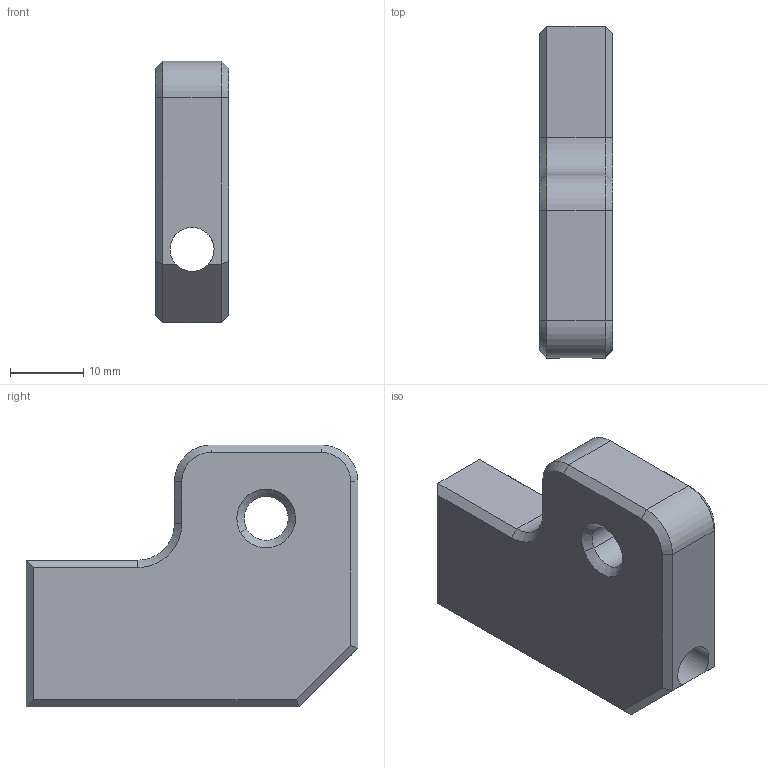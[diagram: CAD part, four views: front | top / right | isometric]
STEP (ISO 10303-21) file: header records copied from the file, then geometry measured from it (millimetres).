
FILE_DESCRIPTION(('CATIA V5 STEP Exchange'),'2;1');
FILE_NAME('E:\Etudes_avions\Sites_web\Apprendre_la_CAO\Sujets\Lampe bureau\Fixation reflecteur.stp','2017-08-03T16:22:45+00:00',('none'),('none'),'CATIA Version 5 Release 21 GA (IN-10)','CATIA V5 STEP AP203','none');
FILE_SCHEMA(('CONFIG_CONTROL_DESIGN'));
Length unit declared in the file: millimetre
Products named in the file (1): Fixation reflecteur
Bounding box: 10 x 45.22 x 35.7 mm (x, y, z)
Volume: 10865.2 mm3; surface area: 4750.2 mm2
Topology: 1 solids, 1 shells, 40 faces, 93 edges, 54 vertices
Faces by surface type: plane 23, cone 10, cylinder 7
Entity records: 1126 total; most frequent: CARTESIAN_POINT 205, ORIENTED_EDGE 186, DIRECTION 160, EDGE_CURVE 93, AXIS2_PLACEMENT_3D 64, VECTOR 59, LINE 59, VERTEX_POINT 54
